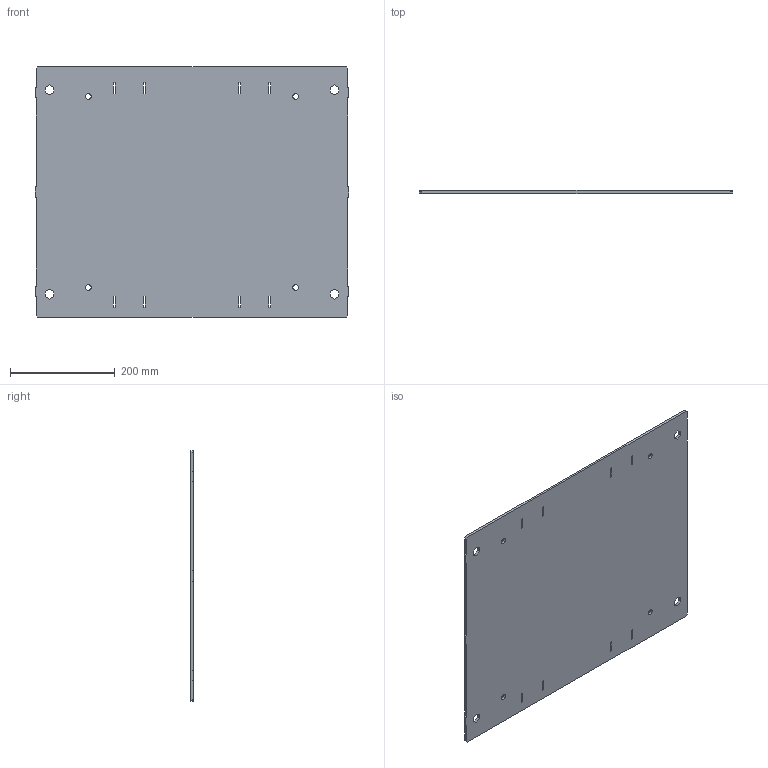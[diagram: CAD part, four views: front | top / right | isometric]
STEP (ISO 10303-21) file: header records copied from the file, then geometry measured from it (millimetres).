
FILE_DESCRIPTION (( 'STEP AP203' ), '1' );
FILE_NAME ('ORW-72.24.10.006 Äíî.STEP', '2025-10-13T13:18:08', ( 'Àíäðåé' ), ( '' ), 'SwSTEP 2.0', 'SolidWorks 2025', '' );
FILE_SCHEMA (( 'CONFIG_CONTROL_DESIGN' ));
Length unit declared in the file: millimetre
Products named in the file (1): ORW-72.24.10.006 Дно
Bounding box: 600 x 5 x 479.5 mm (x, y, z)
Volume: 1420242.2 mm3; surface area: 582739 mm2
Topology: 1 solids, 1 shells, 94 faces, 276 edges, 184 vertices
Faces by surface type: plane 90, cylinder 4
Full cylindrical faces by diameter (mm): 11 x4
Entity records: 3175 total; most frequent: CARTESIAN_POINT 563, ORIENTED_EDGE 544, DIRECTION 458, EDGE_CURVE 272, LINE 252, VECTOR 252, VERTEX_POINT 184, EDGE_LOOP 130
